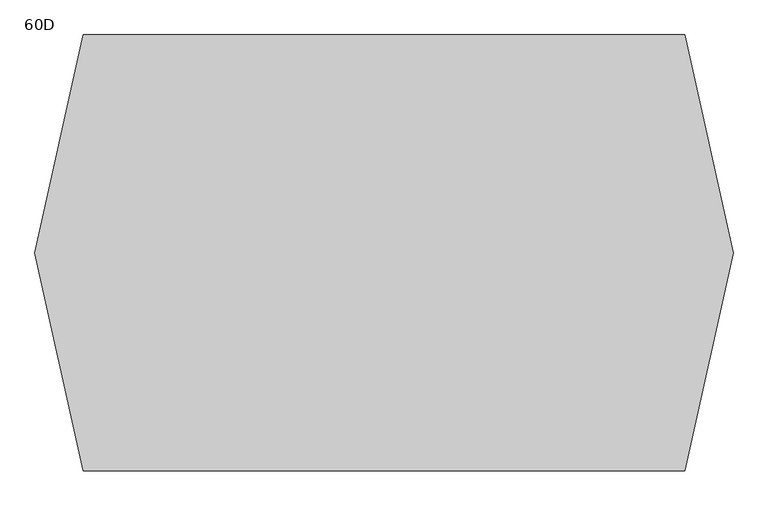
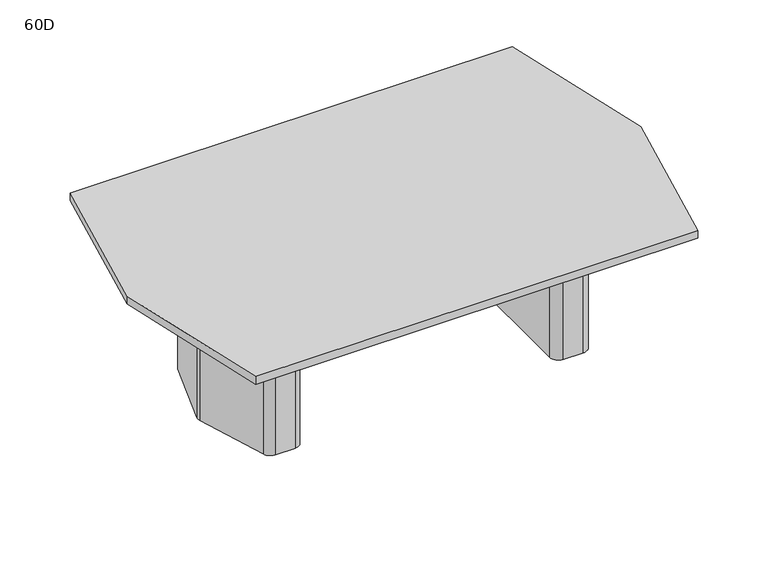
"""IFC4 building model written with IfcOpenShell, lengths in millimetres: furniture geometry, Coalesse_AM_Table_Conference_ETable2_Faceted_96in_TwoBase : 60D."""

from ifc_helpers import new_model, si_unit, point, frame, frame_2d, origin, origin_with_axes, place, context, project, spatial, polyline, circle_curve, trimmed, segment, composite_curve, outline, extrude, source, transform, mapped, element, save


def furniture_60d_34ab8fc2(model_context):
    return source(origin(), model_context, "Body", "SweptSolid", [
        extrude(outline(composite_curve([segment(polyline([(817.5625, 101.7236478), (817.5625, -97.2761514)]), True, "CONTINUOUS"), segment(trimmed(circle_curve(frame_2d((779.4625, -97.2761514)), 38.1), [point((817.5625, -97.2761514))], [point((815.7991129, -108.7330515))], False, "CARTESIAN"), True, "CONTINUOUS"), segment(polyline([(815.7991129, -108.7330515), (757.3745591, -294.0319001)]), True, "CONTINUOUS"), segment(trimmed(circle_curve(frame_2d((721.0379462, -282.575)), 38.1), [point((757.3745591, -294.0319001))], [point((721.0379462, -320.675))], False, "CARTESIAN"), True, "CONTINUOUS"), segment(polyline([(721.0379462, -320.675), (654.05, -320.675)]), True, "CONTINUOUS"), segment(trimmed(circle_curve(frame_2d((654.05, -282.575)), 38.1), [point((654.05, -320.675))], [point((615.95, -282.575))], False, "CARTESIAN"), True, "CONTINUOUS"), segment(polyline([(615.95, -282.575), (615.95, 282.575)]), True, "CONTINUOUS"), segment(trimmed(circle_curve(frame_2d((654.05, 282.575)), 38.1), [point((615.95, 282.575))], [point((654.05, 320.675))], False, "CARTESIAN"), True, "CONTINUOUS"), segment(polyline([(654.05, 320.675), (724.7873998, 320.675)]), True, "CONTINUOUS"), segment(trimmed(circle_curve(frame_2d((724.7873998, 282.575)), 38.1), [point((724.7873998, 320.675))], [point((761.2572049, 293.6005756))], False, "CARTESIAN"), True, "CONTINUOUS"), segment(polyline([(761.2572049, 293.6005756), (815.9323051, 112.7492234)]), True, "CONTINUOUS"), segment(trimmed(circle_curve(frame_2d((779.4625, 101.7236478)), 38.1), [point((815.9323051, 112.7492234))], [point((817.5625, 101.7236478))], False, "CARTESIAN"), True, "CONTINUOUS")], self_intersect=False)), origin_with_axes(), (0.0, 0.0, 1.0), 3.175),
        extrude(outline(composite_curve([segment(polyline([(638.175, 381.0), (726.3221663, 381.0)]), True, "CONTINUOUS"), segment(trimmed(circle_curve(frame_2d((726.3221663, 339.725)), 41.275), [point((726.3221663, 381.0))], [point((765.6868303, 352.1366418))], False, "CARTESIAN"), True, "CONTINUOUS"), segment(polyline([(765.6868303, 352.1366418), (872.8018053, 12.4116418)]), True, "CONTINUOUS"), segment(trimmed(circle_curve(frame_2d((833.4371413, 0.0)), 41.275), [point((872.8018053, 12.4116418))], [point((872.8018053, -12.4116418))], False, "CARTESIAN"), True, "CONTINUOUS"), segment(polyline([(872.8018053, -12.4116418), (765.6868303, -352.1366418)]), True, "CONTINUOUS"), segment(trimmed(circle_curve(frame_2d((726.3221663, -339.725)), 41.275), [point((765.6868303, -352.1366418))], [point((726.3221663, -381.0))], False, "CARTESIAN"), True, "CONTINUOUS"), segment(polyline([(726.3221663, -381.0), (631.825, -381.0)]), True, "CONTINUOUS"), segment(trimmed(circle_curve(frame_2d((631.825, -339.725)), 41.275), [point((631.825, -381.0))], [point((590.55, -339.725))], False, "CARTESIAN"), True, "CONTINUOUS"), segment(polyline([(590.55, -339.725), (590.55, 333.375)]), True, "CONTINUOUS"), segment(trimmed(circle_curve(frame_2d((638.175, 333.375)), 47.625), [point((590.55, 333.375))], [point((638.175, 381.0))], False, "CARTESIAN"), True, "CONTINUOUS")], self_intersect=False), holes=[composite_curve([segment(trimmed(circle_curve(frame_2d((654.05, -282.575)), 25.4), [point((628.65, -282.575))], [point((654.05, -307.975))], True, "CARTESIAN"), True, "CONTINUOUS"), segment(polyline([(654.05, -307.975), (721.0379462, -307.975)]), True, "CONTINUOUS"), segment(trimmed(circle_curve(frame_2d((721.0379462, -282.575)), 25.4), [point((721.0379462, -307.975))], [point((745.2623548, -290.2129334))], True, "CARTESIAN"), True, "CONTINUOUS"), segment(polyline([(745.2623548, -290.2129334), (803.6869086, -104.9140848)]), True, "CONTINUOUS"), segment(trimmed(circle_curve(frame_2d((779.4625, -97.2761514)), 25.4), [point((803.6869086, -104.9140848))], [point((804.8625, -97.2761514))], True, "CARTESIAN"), True, "CONTINUOUS"), segment(polyline([(804.8625, -97.2761514), (804.8625, 101.7236478)]), True, "CONTINUOUS"), segment(trimmed(circle_curve(frame_2d((779.4625, 101.7236478)), 25.4), [point((804.8625, 101.7236478))], [point((803.7757034, 109.0740316))], True, "CARTESIAN"), True, "CONTINUOUS"), segment(polyline([(803.7757034, 109.0740316), (749.1006032, 289.9253837)]), True, "CONTINUOUS"), segment(trimmed(circle_curve(frame_2d((724.7873998, 282.575)), 25.4), [point((749.1006032, 289.9253837))], [point((724.7873998, 307.975))], True, "CARTESIAN"), True, "CONTINUOUS"), segment(polyline([(724.7873998, 307.975), (654.05, 307.975)]), True, "CONTINUOUS"), segment(trimmed(circle_curve(frame_2d((654.05, 282.575)), 25.4), [point((654.05, 307.975))], [point((628.65, 282.575))], True, "CARTESIAN"), True, "CONTINUOUS"), segment(polyline([(628.65, 282.575), (628.65, -282.575)]), True, "CONTINUOUS")], self_intersect=False)]), frame((0.0, 0.0, 3.175), z_axis=(0.0, 0.0, 1.0), x_axis=(1.0, 0.0, 0.0)), (0.0, 0.0, 1.0), 695.325),
        extrude(outline(composite_curve([segment(trimmed(circle_curve(frame_2d((-790.575, 101.7236478)), 38.1), [point((-828.675, 101.7236478))], [point((-827.0448051, 112.7492234))], False, "CARTESIAN"), True, "CONTINUOUS"), segment(polyline([(-827.0448051, 112.7492234), (-772.3697049, 293.6005756)]), True, "CONTINUOUS"), segment(trimmed(circle_curve(frame_2d((-735.8998998, 282.575)), 38.1), [point((-772.3697049, 293.6005756))], [point((-735.8998998, 320.675))], False, "CARTESIAN"), True, "CONTINUOUS"), segment(polyline([(-735.8998998, 320.675), (-665.1625, 320.675)]), True, "CONTINUOUS"), segment(trimmed(circle_curve(frame_2d((-665.1625, 282.575)), 38.1), [point((-665.1625, 320.675))], [point((-627.0625, 282.575))], False, "CARTESIAN"), True, "CONTINUOUS"), segment(polyline([(-627.0625, 282.575), (-627.0625, -282.575)]), True, "CONTINUOUS"), segment(trimmed(circle_curve(frame_2d((-665.1625, -282.575)), 38.1), [point((-627.0625, -282.575))], [point((-665.1625, -320.675))], False, "CARTESIAN"), True, "CONTINUOUS"), segment(polyline([(-665.1625, -320.675), (-732.1504462, -320.675)]), True, "CONTINUOUS"), segment(trimmed(circle_curve(frame_2d((-732.1504462, -282.575)), 38.1), [point((-732.1504462, -320.675))], [point((-768.4870591, -294.0319001))], False, "CARTESIAN"), True, "CONTINUOUS"), segment(polyline([(-768.4870591, -294.0319001), (-826.9116129, -108.7330515)]), True, "CONTINUOUS"), segment(trimmed(circle_curve(frame_2d((-790.575, -97.2761514)), 38.1), [point((-826.9116129, -108.7330515))], [point((-828.675, -97.2761514))], False, "CARTESIAN"), True, "CONTINUOUS"), segment(polyline([(-828.675, -97.2761514), (-828.675, 101.7236478)]), True, "CONTINUOUS")], self_intersect=False)), origin_with_axes(), (0.0, 0.0, 1.0), 3.175),
        extrude(outline(composite_curve([segment(trimmed(circle_curve(frame_2d((-649.2875, 333.375)), 47.625), [point((-649.2875, 381.0))], [point((-601.6625, 333.375))], False, "CARTESIAN"), True, "CONTINUOUS"), segment(polyline([(-601.6625, 333.375), (-601.6625, -339.725)]), True, "CONTINUOUS"), segment(trimmed(circle_curve(frame_2d((-642.9375, -339.725)), 41.275), [point((-601.6625, -339.725))], [point((-642.9375, -381.0))], False, "CARTESIAN"), True, "CONTINUOUS"), segment(polyline([(-642.9375, -381.0), (-737.4346663, -381.0)]), True, "CONTINUOUS"), segment(trimmed(circle_curve(frame_2d((-737.4346663, -339.725)), 41.275), [point((-737.4346663, -381.0))], [point((-776.7993303, -352.1366418))], False, "CARTESIAN"), True, "CONTINUOUS"), segment(polyline([(-776.7993303, -352.1366418), (-883.9143053, -12.4116418)]), True, "CONTINUOUS"), segment(trimmed(circle_curve(frame_2d((-844.5496413, 0.0)), 41.275), [point((-883.9143053, -12.4116418))], [point((-883.9143053, 12.4116418))], False, "CARTESIAN"), True, "CONTINUOUS"), segment(polyline([(-883.9143053, 12.4116418), (-776.7993303, 352.1366418)]), True, "CONTINUOUS"), segment(trimmed(circle_curve(frame_2d((-737.4346663, 339.725)), 41.275), [point((-776.7993303, 352.1366418))], [point((-737.4346663, 381.0))], False, "CARTESIAN"), True, "CONTINUOUS"), segment(polyline([(-737.4346663, 381.0), (-649.2875, 381.0)]), True, "CONTINUOUS")], self_intersect=False), holes=[composite_curve([segment(polyline([(-639.7625, -282.575), (-639.7625, 282.575)]), True, "CONTINUOUS"), segment(trimmed(circle_curve(frame_2d((-665.1625, 282.575)), 25.4), [point((-639.7625, 282.575))], [point((-665.1625, 307.975))], True, "CARTESIAN"), True, "CONTINUOUS"), segment(polyline([(-665.1625, 307.975), (-735.8998998, 307.975)]), True, "CONTINUOUS"), segment(trimmed(circle_curve(frame_2d((-735.8998998, 282.575)), 25.4), [point((-735.8998998, 307.975))], [point((-760.2131032, 289.9253837))], True, "CARTESIAN"), True, "CONTINUOUS"), segment(polyline([(-760.2131032, 289.9253837), (-814.8882034, 109.0740316)]), True, "CONTINUOUS"), segment(trimmed(circle_curve(frame_2d((-790.575, 101.7236478)), 25.4), [point((-814.8882034, 109.0740316))], [point((-815.975, 101.7236478))], True, "CARTESIAN"), True, "CONTINUOUS"), segment(polyline([(-815.975, 101.7236478), (-815.975, -97.2761514)]), True, "CONTINUOUS"), segment(trimmed(circle_curve(frame_2d((-790.575, -97.2761514)), 25.4), [point((-815.975, -97.2761514))], [point((-814.7994086, -104.9140848))], True, "CARTESIAN"), True, "CONTINUOUS"), segment(polyline([(-814.7994086, -104.9140848), (-756.3748548, -290.2129334)]), True, "CONTINUOUS"), segment(trimmed(circle_curve(frame_2d((-732.1504462, -282.575)), 25.4), [point((-756.3748548, -290.2129334))], [point((-732.1504462, -307.975))], True, "CARTESIAN"), True, "CONTINUOUS"), segment(polyline([(-732.1504462, -307.975), (-665.1625, -307.975)]), True, "CONTINUOUS"), segment(trimmed(circle_curve(frame_2d((-665.1625, -282.575)), 25.4), [point((-665.1625, -307.975))], [point((-639.7625, -282.575))], True, "CARTESIAN"), True, "CONTINUOUS")], self_intersect=False)]), frame((0.0, 0.0, 3.175), z_axis=(0.0, 0.0, 1.0), x_axis=(1.0, 0.0, 0.0)), (0.0, 0.0, 1.0), 695.325),
        extrude(outline(polyline([(96.8375, 698.5), (103.1875, 698.5), (103.1875, 476.25), (-103.1875, 476.25), (-103.1875, 698.5), (-96.8375, 698.5), (-96.8375, 482.6), (96.8375, 482.6), (96.8375, 698.5)])), frame((-601.6625, 0.0, 0.0), z_axis=(1.0, 0.0, 0.0), x_axis=(0.0, 1.0, 0.0)), (0.0, 0.0, 1.0), 1192.2125),
        extrude(outline(polyline([(1050.2677242, 762.0), (1219.2, 0.0), (1050.2677242, -762.0), (-1050.2677242, -762.0), (-1219.2, 0.0), (-1050.2677242, 762.0), (1050.2677242, 762.0)])), frame((0.0, 0.0, 698.5), z_axis=(0.0, 0.0, 1.0), x_axis=(1.0, 0.0, 0.0)), (0.0, 0.0, 1.0), 38.1),
    ])


if __name__ == "__main__":
    model = new_model("IFC4")
    model_context = context("Model", 3, world=origin())
    ifc_project = project(units=[si_unit("LENGTHUNIT", "METRE", prefix="MILLI")], contexts=[model_context])
    site = spatial("IfcSite", under=ifc_project)
    building = spatial("IfcBuilding", under=site)
    placement = place(None, origin())
    furniture_60d_shape = furniture_60d_34ab8fc2(model_context)
    element("IfcFurniture", 1, ObjectType="Coalesse_AM_Table_Conference_ETable2_Faceted_96in_TwoBase : 60D", at=placement, inside=building, context=model_context, shape_type="MappedRepresentation", body=[
        mapped(furniture_60d_shape, transform((0.0, 0.0, 0.0), x_axis=(1.0, 0.0, 0.0), y_axis=(0.0, 1.0, 0.0), z_axis=(0.0, 0.0, 1.0))),
    ])
    save(model, "model.ifc")
